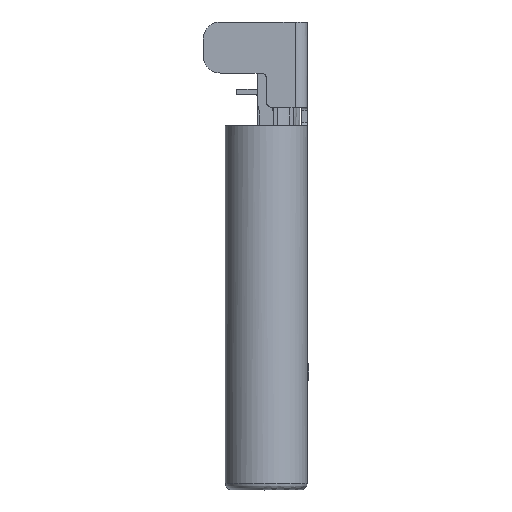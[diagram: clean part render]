
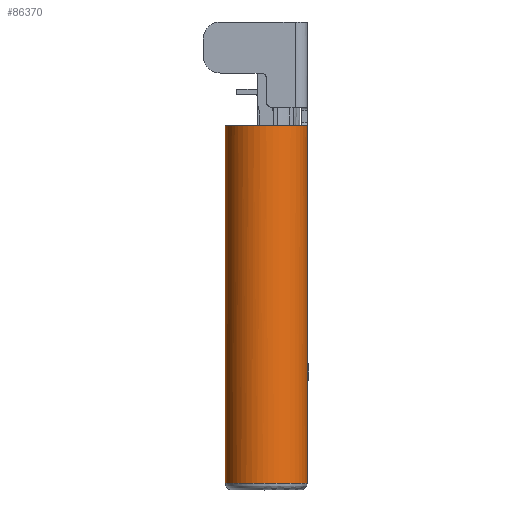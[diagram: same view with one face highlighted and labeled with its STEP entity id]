
A CAD part, left-side view. The second image highlights one B-rep face of the part: STEP entity #86370.
In plain terms, the highlighted free-form (B-spline) face has degree [1, 3] with [2, 4] control points.
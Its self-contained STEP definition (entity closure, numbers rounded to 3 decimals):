
#3838 = CARTESIAN_POINT ( 'NONE',  ( -5.325, 1.19, 10.7 ) ) ;
#12152 = CARTESIAN_POINT ( 'NONE',  ( -2.925, -1.21, 10.7 ) ) ;
#15520 = CARTESIAN_POINT ( 'NONE',  ( -4.125, 0.693, 0.2 ) ) ;
#18424 = CARTESIAN_POINT ( 'NONE',  ( -5.325, -1.21, 10.7 ) ) ;
#19276 = ORIENTED_EDGE ( 'NONE', *, *, #32870, .F. ) ;
#30158 = EDGE_LOOP ( 'NONE', ( #95640, #19276, #49537, #37579 ) ) ;
#32503 = VERTEX_POINT ( 'NONE', #74248 ) ;
#32557 = CARTESIAN_POINT ( 'NONE',  ( -2.925, 1.19, 3.7 ) ) ;
#32870 = EDGE_CURVE ( 'NONE', #98679, #32503, #78474, .T. ) ;
#35061 = FACE_OUTER_BOUND ( 'NONE', #30158, .T. ) ;
#36088 = CARTESIAN_POINT ( 'NONE',  ( -5.325, 1.19, 0.2 ) ) ;
#37579 = ORIENTED_EDGE ( 'NONE', *, *, #88763, .F. ) ;
#40992 = EDGE_CURVE ( 'NONE', #98679, #71744, #88437, .T. ) ;
#41648 = CARTESIAN_POINT ( 'NONE',  ( -2.925, -1.21, 10.7 ) ) ;
#42650 = CARTESIAN_POINT ( 'NONE',  ( -5.325, -1.21, 10.7 ) ) ;
#43898 = CARTESIAN_POINT ( 'NONE',  ( -2.925, 1.19, 10.7 ) ) ;
#47192 = CARTESIAN_POINT ( 'NONE',  ( -2.925, 1.19, 7.2 ) ) ;
#47506 =( BOUNDED_CURVE ( )  B_SPLINE_CURVE ( 3, ( #61336, #77993, #78522, #87363, #15520, #95155, #101960 ),
 .UNSPECIFIED., .F., .F. ) 
 B_SPLINE_CURVE_WITH_KNOTS ( ( 4, 3, 4 ),
 ( 0., 0.5, 1. ),
 .UNSPECIFIED. ) 
 CURVE ( )  GEOMETRIC_REPRESENTATION_ITEM ( )  RATIONAL_B_SPLINE_CURVE ( ( 1., 0.805, 0.805, 1., 0.805, 0.805, 1. ) ) 
 REPRESENTATION_ITEM ( '' )  );
#49537 = ORIENTED_EDGE ( 'NONE', *, *, #40992, .T. ) ;
#52885 = CARTESIAN_POINT ( 'NONE',  ( -2.925, -1.21, 0.2 ) ) ;
#53976 = CARTESIAN_POINT ( 'NONE',  ( -2.925, -1.21, 10.7 ) ) ;
#54471 = CARTESIAN_POINT ( 'NONE',  ( -2.925, 1.19, 10.7 ) ) ;
#57993 = CARTESIAN_POINT ( 'NONE',  ( -5.325, -1.21, 0.2 ) ) ;
#60649 = CARTESIAN_POINT ( 'NONE',  ( -2.925, 1.19, 0.2 ) ) ;
#61336 = CARTESIAN_POINT ( 'NONE',  ( -2.925, -1.21, 0.2 ) ) ;
#64570 = CARTESIAN_POINT ( 'NONE',  ( -5.325, 1.19, 10.7 ) ) ;
#66294 = CARTESIAN_POINT ( 'NONE',  ( -2.925, -1.21, 0.2 ) ) ;
#66957 = CARTESIAN_POINT ( 'NONE',  ( -2.925, -1.21, 10.7 ) ) ;
#68941 =( BOUNDED_SURFACE ( )  B_SPLINE_SURFACE ( 1, 3, ( 
 ( #12152, #18424, #3838, #43898 ),
 ( #66294, #57993, #36088, #99604 ) ),
 .UNSPECIFIED., .F., .F., .T. ) 
 B_SPLINE_SURFACE_WITH_KNOTS ( ( 2, 2 ),
 ( 4, 4 ),
 ( 0.019, 0.981 ),
 ( 0., 1. ),
 .UNSPECIFIED. ) 
 GEOMETRIC_REPRESENTATION_ITEM ( )  RATIONAL_B_SPLINE_SURFACE ( (
 ( 1., 0.333, 0.333, 1.),
 ( 1., 0.333, 0.333, 1.) ) ) 
 REPRESENTATION_ITEM ( '' )  SURFACE ( )  );
#71744 = VERTEX_POINT ( 'NONE', #75967 ) ;
#73396 = CARTESIAN_POINT ( 'NONE',  ( -2.925, 1.19, 10.7 ) ) ;
#74248 = CARTESIAN_POINT ( 'NONE',  ( -2.925, -1.21, 0.2 ) ) ;
#75750 = B_SPLINE_CURVE_WITH_KNOTS ( 'NONE', 3,
 ( #96087, #32557, #47192, #54471 ),
 .UNSPECIFIED., .F., .F.,
 ( 4, 4 ),
 ( 0., 1. ),
 .UNSPECIFIED. ) ;
#75967 = CARTESIAN_POINT ( 'NONE',  ( -2.925, 1.19, 10.7 ) ) ;
#77993 = CARTESIAN_POINT ( 'NONE',  ( -3.628, -1.21, 0.2 ) ) ;
#78474 = B_SPLINE_CURVE_WITH_KNOTS ( 'NONE', 3,
 ( #66957, #98722, #84134, #52885 ),
 .UNSPECIFIED., .F., .F.,
 ( 4, 4 ),
 ( 0., 1. ),
 .UNSPECIFIED. ) ;
#78522 = CARTESIAN_POINT ( 'NONE',  ( -4.125, -0.713, 0.2 ) ) ;
#83389 = EDGE_CURVE ( 'NONE', #32503, #99088, #47506, .T. ) ;
#84134 = CARTESIAN_POINT ( 'NONE',  ( -2.925, -1.21, 3.7 ) ) ;
#86370 = ADVANCED_FACE ( 'NONE', ( #35061 ), #68941, .F. ) ;
#87363 = CARTESIAN_POINT ( 'NONE',  ( -4.125, -0.01, 0.2 ) ) ;
#88437 =( BOUNDED_CURVE ( )  B_SPLINE_CURVE ( 3, ( #41648, #42650, #64570, #73396 ),
 .UNSPECIFIED., .F., .F. ) 
 B_SPLINE_CURVE_WITH_KNOTS ( ( 4, 4 ),
 ( 0., 1. ),
 .UNSPECIFIED. ) 
 CURVE ( )  GEOMETRIC_REPRESENTATION_ITEM ( )  RATIONAL_B_SPLINE_CURVE ( ( 1., 0.333, 0.333, 1. ) ) 
 REPRESENTATION_ITEM ( '' )  );
#88763 = EDGE_CURVE ( 'NONE', #99088, #71744, #75750, .T. ) ;
#95155 = CARTESIAN_POINT ( 'NONE',  ( -3.628, 1.19, 0.2 ) ) ;
#95640 = ORIENTED_EDGE ( 'NONE', *, *, #83389, .F. ) ;
#96087 = CARTESIAN_POINT ( 'NONE',  ( -2.925, 1.19, 0.2 ) ) ;
#98679 = VERTEX_POINT ( 'NONE', #53976 ) ;
#98722 = CARTESIAN_POINT ( 'NONE',  ( -2.925, -1.21, 7.2 ) ) ;
#99088 = VERTEX_POINT ( 'NONE', #60649 ) ;
#99604 = CARTESIAN_POINT ( 'NONE',  ( -2.925, 1.19, 0.2 ) ) ;
#101960 = CARTESIAN_POINT ( 'NONE',  ( -2.925, 1.19, 0.2 ) ) ;
